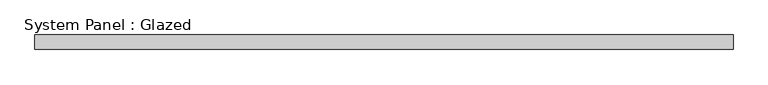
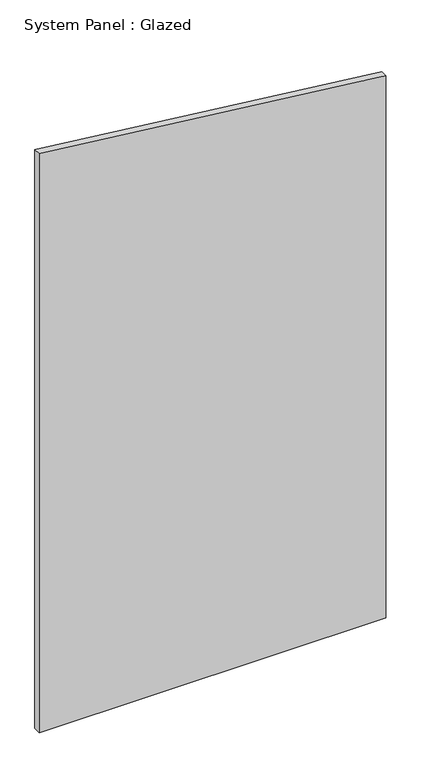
"""IFC4 building model written with IfcOpenShell, lengths in millimetres: plate geometry, System Panel : Glazed."""

from ifc_helpers import new_model, si_unit, frame, origin, place, context, project, spatial, polyline, outline, extrude, source, transform, mapped, element, save


def system_panel_glazed_de581185(model_context):
    return source(origin(), model_context, "Body", "SweptSolid", [
        extrude(outline(polyline([(0.0, -609.6), (0.0, 609.6), (2017.506255, 609.6), (2153.8715492, -609.6), (0.0, -609.6)])), frame((0.0, -44.45, 0.0), z_axis=(0.0, 1.0, 0.0), x_axis=(0.0, 0.0, 1.0)), (0.0, 0.0, 1.0), 25.4),
    ])


if __name__ == "__main__":
    model = new_model("IFC4")
    model_context = context("Model", 3, world=origin())
    ifc_project = project(units=[si_unit("LENGTHUNIT", "METRE", prefix="MILLI")], contexts=[model_context])
    site = spatial("IfcSite", under=ifc_project)
    building = spatial("IfcBuilding", under=site)
    placement = place(None, origin())
    system_panel_glazed_shape = system_panel_glazed_de581185(model_context)
    element("IfcPlate", 1, ObjectType="System Panel : Glazed", at=placement, inside=building, context=model_context, shape_type="MappedRepresentation", body=[
        mapped(system_panel_glazed_shape, transform((0.0, 0.0, 0.0), x_axis=(1.0, 0.0, 0.0), y_axis=(0.0, 1.0, 0.0), z_axis=(0.0, 0.0, 1.0))),
    ])
    save(model, "model.ifc")
